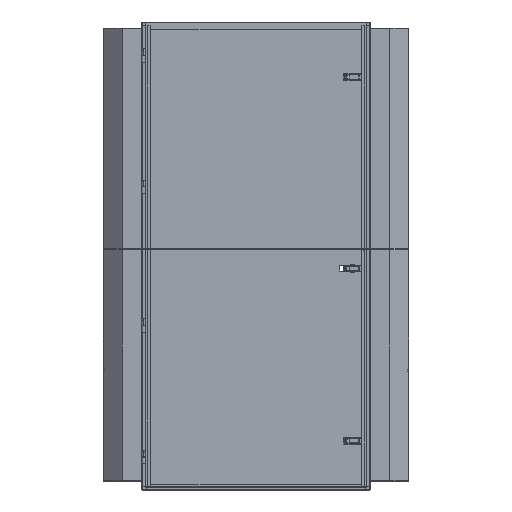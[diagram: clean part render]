
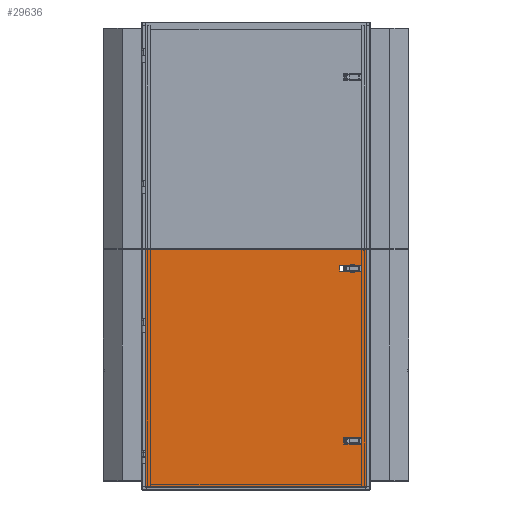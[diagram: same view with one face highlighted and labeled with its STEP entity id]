
A CAD part, top view. The second image highlights one B-rep face of the part: STEP entity #29636.
In plain terms, the highlighted planar face has unit normal (0, 0, -1).
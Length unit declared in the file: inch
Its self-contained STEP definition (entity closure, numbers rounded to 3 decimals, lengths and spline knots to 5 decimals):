
#4372 = ORIENTED_EDGE ( 'NONE', *, *, #131047, .F. ) ;
#6003 = LINE ( 'NONE', #98646, #59624 ) ;
#6741 = CARTESIAN_POINT ( 'NONE',  ( 47.16186, 40.49551, 0. ) ) ;
#8109 = CARTESIAN_POINT ( 'NONE',  ( 47.16186, 40.49551, 0. ) ) ;
#8711 = CARTESIAN_POINT ( 'NONE',  ( 7.77491, 44.41063, 0. ) ) ;
#9729 = ORIENTED_EDGE ( 'NONE', *, *, #126155, .F. ) ;
#11632 = LINE ( 'NONE', #129628, #115859 ) ;
#11792 = VERTEX_POINT ( 'NONE', #107435 ) ;
#12897 = EDGE_CURVE ( 'NONE', #62418, #52479, #95729, .T. ) ;
#15252 = LINE ( 'NONE', #35038, #68907 ) ;
#16881 = DIRECTION ( 'NONE',  ( 0., -1., 0. ) ) ;
#19431 = AXIS2_PLACEMENT_3D ( 'NONE', #47201, #117946, #57374 ) ;
#19652 = EDGE_CURVE ( 'NONE', #111844, #54888, #15252, .T. ) ;
#22312 = EDGE_CURVE ( 'NONE', #52479, #66047, #60364, .T. ) ;
#22956 = VERTEX_POINT ( 'NONE', #87333 ) ;
#26894 = PLANE ( 'NONE',  #19431 ) ;
#27449 = CARTESIAN_POINT ( 'NONE',  ( 47.16186, 8.99551, 0. ) ) ;
#29636 = ADVANCED_FACE ( 'NONE', ( #127266, #100324, #73529 ), #26894, .F. ) ;
#33270 = EDGE_CURVE ( 'NONE', #112468, #64470, #37898, .T. ) ;
#33527 = VECTOR ( 'NONE', #16881, 39.37008 ) ;
#34346 = CARTESIAN_POINT ( 'NONE',  ( 44.10186, 8.99551, 0. ) ) ;
#34672 = VECTOR ( 'NONE', #114802, 39.37008 ) ;
#34705 = VECTOR ( 'NONE', #44515, 39.37008 ) ;
#35038 = CARTESIAN_POINT ( 'NONE',  ( 7.77491, 0.99551, 0. ) ) ;
#37898 = LINE ( 'NONE', #34346, #34705 ) ;
#38555 = LINE ( 'NONE', #112547, #112866 ) ;
#39255 = VECTOR ( 'NONE', #69204, 39.37008 ) ;
#40553 = ORIENTED_EDGE ( 'NONE', *, *, #33270, .F. ) ;
#41820 = CARTESIAN_POINT ( 'NONE',  ( 48.07396, 44.41063, 0. ) ) ;
#42589 = CARTESIAN_POINT ( 'NONE',  ( 47.16186, 9.99551, 0. ) ) ;
#44515 = DIRECTION ( 'NONE',  ( 0., 1., 0. ) ) ;
#45023 = ORIENTED_EDGE ( 'NONE', *, *, #12897, .F. ) ;
#45165 = VECTOR ( 'NONE', #53451, 39.37008 ) ;
#45567 = DIRECTION ( 'NONE',  ( 0., -1., 0. ) ) ;
#47201 = CARTESIAN_POINT ( 'NONE',  ( 48.15884, 0.99551, 0. ) ) ;
#51183 = EDGE_CURVE ( 'NONE', #66047, #11792, #126100, .T. ) ;
#52479 = VERTEX_POINT ( 'NONE', #102008 ) ;
#53451 = DIRECTION ( 'NONE',  ( 1., 0., 0. ) ) ;
#54888 = VERTEX_POINT ( 'NONE', #122684 ) ;
#54970 = CARTESIAN_POINT ( 'NONE',  ( 43.21186, 40.49551, 0. ) ) ;
#57374 = DIRECTION ( 'NONE',  ( 1., 0., 0. ) ) ;
#59624 = VECTOR ( 'NONE', #88950, 39.37008 ) ;
#59744 = VERTEX_POINT ( 'NONE', #42589 ) ;
#60228 = EDGE_LOOP ( 'NONE', ( #9729, #86453, #114996, #124567 ) ) ;
#60364 = LINE ( 'NONE', #6741, #33527 ) ;
#61590 = ORIENTED_EDGE ( 'NONE', *, *, #93460, .F. ) ;
#62418 = VERTEX_POINT ( 'NONE', #78690 ) ;
#64310 = CARTESIAN_POINT ( 'NONE',  ( 44.10186, 9.99551, 0. ) ) ;
#64418 = CARTESIAN_POINT ( 'NONE',  ( 48.15884, 1.08038, 0. ) ) ;
#64470 = VERTEX_POINT ( 'NONE', #64310 ) ;
#66047 = VERTEX_POINT ( 'NONE', #8109 ) ;
#67329 = EDGE_CURVE ( 'NONE', #91483, #111844, #6003, .T. ) ;
#67615 = EDGE_CURVE ( 'NONE', #59744, #79648, #75420, .T. ) ;
#68907 = VECTOR ( 'NONE', #115927, 39.37008 ) ;
#68936 = DIRECTION ( 'NONE',  ( -1., 0., 0. ) ) ;
#69204 = DIRECTION ( 'NONE',  ( -1., 0., 0. ) ) ;
#72105 = CARTESIAN_POINT ( 'NONE',  ( 44.10186, 8.99551, 0. ) ) ;
#73529 = FACE_BOUND ( 'NONE', #94568, .T. ) ;
#75420 = LINE ( 'NONE', #106132, #125989 ) ;
#78690 = CARTESIAN_POINT ( 'NONE',  ( 43.21186, 41.49551, 0. ) ) ;
#79110 = CARTESIAN_POINT ( 'NONE',  ( 47.16186, 40.49551, 0. ) ) ;
#79380 = CARTESIAN_POINT ( 'NONE',  ( 47.16186, 8.99551, 0. ) ) ;
#79648 = VERTEX_POINT ( 'NONE', #27449 ) ;
#85474 = DIRECTION ( 'NONE',  ( 0., 1., 0. ) ) ;
#86453 = ORIENTED_EDGE ( 'NONE', *, *, #109768, .F. ) ;
#87333 = CARTESIAN_POINT ( 'NONE',  ( 48.07396, 1.08038, 0. ) ) ;
#88451 = LINE ( 'NONE', #64418, #34672 ) ;
#88950 = DIRECTION ( 'NONE',  ( -1., 0., 0. ) ) ;
#89670 = ORIENTED_EDGE ( 'NONE', *, *, #22312, .F. ) ;
#90927 = ORIENTED_EDGE ( 'NONE', *, *, #67615, .F. ) ;
#91155 = LINE ( 'NONE', #54970, #114889 ) ;
#91483 = VERTEX_POINT ( 'NONE', #41820 ) ;
#93460 = EDGE_CURVE ( 'NONE', #64470, #59744, #11632, .T. ) ;
#94568 = EDGE_LOOP ( 'NONE', ( #61590, #40553, #119339, #90927 ) ) ;
#95729 = LINE ( 'NONE', #114052, #45165 ) ;
#96004 = VECTOR ( 'NONE', #68936, 39.37008 ) ;
#98646 = CARTESIAN_POINT ( 'NONE',  ( 48.15884, 44.41063, 0. ) ) ;
#99532 = DIRECTION ( 'NONE',  ( 1., 0., 0. ) ) ;
#100324 = FACE_BOUND ( 'NONE', #123655, .T. ) ;
#102008 = CARTESIAN_POINT ( 'NONE',  ( 47.16186, 41.49551, 0. ) ) ;
#102806 = DIRECTION ( 'NONE',  ( 0., 1., 0. ) ) ;
#105043 = EDGE_CURVE ( 'NONE', #79648, #112468, #119921, .T. ) ;
#106132 = CARTESIAN_POINT ( 'NONE',  ( 47.16186, 8.99551, 0. ) ) ;
#107435 = CARTESIAN_POINT ( 'NONE',  ( 43.21186, 40.49551, 0. ) ) ;
#109768 = EDGE_CURVE ( 'NONE', #54888, #22956, #88451, .T. ) ;
#111844 = VERTEX_POINT ( 'NONE', #8711 ) ;
#112468 = VERTEX_POINT ( 'NONE', #72105 ) ;
#112547 = CARTESIAN_POINT ( 'NONE',  ( 48.07396, 0.99551, 0. ) ) ;
#112866 = VECTOR ( 'NONE', #102806, 39.37008 ) ;
#114052 = CARTESIAN_POINT ( 'NONE',  ( 47.16186, 41.49551, 0. ) ) ;
#114802 = DIRECTION ( 'NONE',  ( 1., 0., 0. ) ) ;
#114889 = VECTOR ( 'NONE', #85474, 39.37008 ) ;
#114996 = ORIENTED_EDGE ( 'NONE', *, *, #19652, .F. ) ;
#115859 = VECTOR ( 'NONE', #99532, 39.37008 ) ;
#115927 = DIRECTION ( 'NONE',  ( 0., -1., 0. ) ) ;
#117946 = DIRECTION ( 'NONE',  ( 0., 0., 1. ) ) ;
#119339 = ORIENTED_EDGE ( 'NONE', *, *, #105043, .F. ) ;
#119921 = LINE ( 'NONE', #79380, #39255 ) ;
#122684 = CARTESIAN_POINT ( 'NONE',  ( 7.77491, 1.08038, 0. ) ) ;
#123655 = EDGE_LOOP ( 'NONE', ( #89670, #45023, #4372, #129573 ) ) ;
#124567 = ORIENTED_EDGE ( 'NONE', *, *, #67329, .F. ) ;
#125989 = VECTOR ( 'NONE', #45567, 39.37008 ) ;
#126100 = LINE ( 'NONE', #79110, #96004 ) ;
#126155 = EDGE_CURVE ( 'NONE', #22956, #91483, #38555, .T. ) ;
#127266 = FACE_OUTER_BOUND ( 'NONE', #60228, .T. ) ;
#129573 = ORIENTED_EDGE ( 'NONE', *, *, #51183, .F. ) ;
#129628 = CARTESIAN_POINT ( 'NONE',  ( 47.16186, 9.99551, 0. ) ) ;
#131047 = EDGE_CURVE ( 'NONE', #11792, #62418, #91155, .T. ) ;
